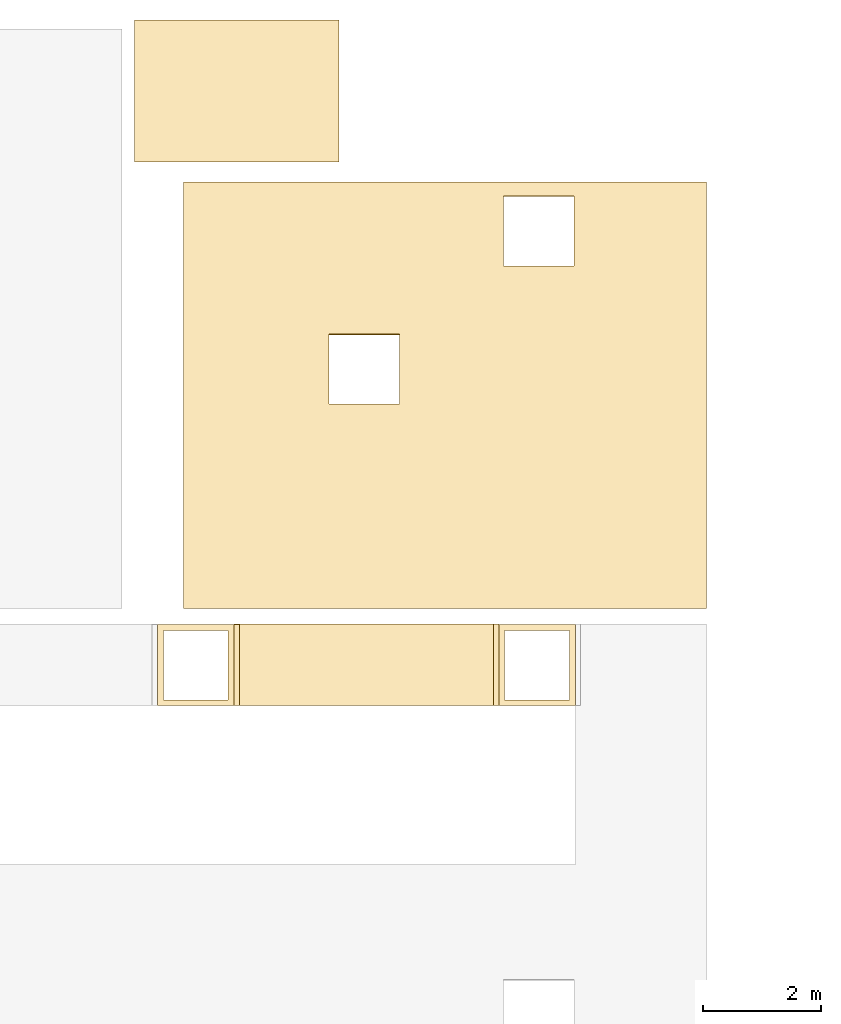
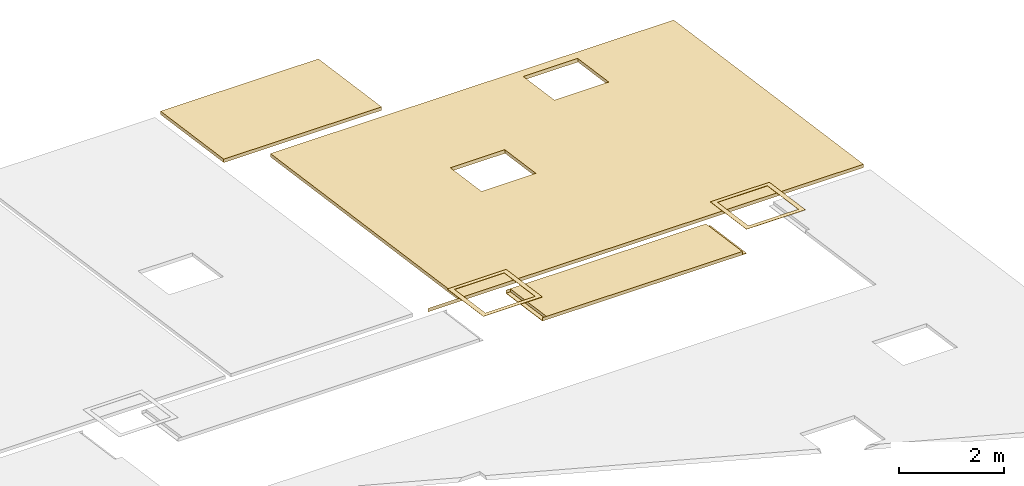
# One storey, part 39 of 43: 5 coverings, 19 openings.
"""IFC2X3 building model written with IfcOpenShell, lengths in millimetres."""

from ifc_helpers import new_model, entity, si_unit, converted_unit, derived_unit, money_unit, direction, frame, origin_with_axes, place, context, subcontext, project, spatial, faceted_brep, material, material_list, type_object, element, save


model = new_model("IFC2X3")

# Units and contexts
model_context = context("Model", 3, precision=0.01, world=origin_with_axes(), true_north=direction((0.0, 1.0)))
body_context = subcontext(model_context, "Body", "Model", "MODEL_VIEW")
ifc_project = project(units=[si_unit("LENGTHUNIT", "METRE", prefix="MILLI"), si_unit("AREAUNIT", "SQUARE_METRE"), si_unit("VOLUMEUNIT", "CUBIC_METRE"), converted_unit("PLANEANGLEUNIT", "DEGREE", entity("IfcPlaneAngleMeasure", 0.0174532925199), si_unit("PLANEANGLEUNIT", "RADIAN"), dimensions=[0, 0, 0, 0, 0, 0, 0]), si_unit("SOLIDANGLEUNIT", "STERADIAN"), money_unit("EUR"), converted_unit("TIMEUNIT", "Year", entity("IfcTimeMeasure", 31556926.0), si_unit("TIMEUNIT", "SECOND"), dimensions=[0, 0, 1, 0, 0, 0, 0]), si_unit("MASSUNIT", "GRAM", prefix="KILO"), si_unit("THERMODYNAMICTEMPERATUREUNIT", "DEGREE_CELSIUS"), si_unit("LUMINOUSINTENSITYUNIT", "LUMEN"), si_unit("ENERGYUNIT", "JOULE", prefix="MEGA"), derived_unit("THERMALCONDUCTANCEUNIT", [(si_unit("POWERUNIT", "WATT"), 1), (si_unit("LENGTHUNIT", "METRE"), -1), (si_unit("THERMODYNAMICTEMPERATUREUNIT", "KELVIN"), -1)]), derived_unit("SPECIFICHEATCAPACITYUNIT", [(si_unit("ENERGYUNIT", "JOULE"), 1), (si_unit("MASSUNIT", "GRAM", prefix="KILO"), -1), (si_unit("THERMODYNAMICTEMPERATUREUNIT", "KELVIN"), -1)]), derived_unit("MASSDENSITYUNIT", [(si_unit("MASSUNIT", "GRAM", prefix="KILO"), 1), (si_unit("VOLUMEUNIT", "CUBIC_METRE"), -1)])], contexts=[model_context])

# Site, building, storey
site_placement = place(None, origin_with_axes())
site = spatial("IfcSite", under=ifc_project, at=site_placement, Name="L.Koidula tn 11b", CompositionType="ELEMENT")
building_placement = place(site_placement, origin_with_axes())
building = spatial("IfcBuilding", under=site, at=building_placement, Name="Rakvere Riigigümnaasium", CompositionType="ELEMENT")
storey_placement = place(building_placement, frame((0.0, 0.0, 6665.0), z_axis=(0.0, 0.0, 1.0), x_axis=(1.0, 0.0, 0.0)))
storey = spatial("IfcBuildingStorey", under=building, at=storey_placement, Name="3.korrus +6,66", CompositionType="ELEMENT", Elevation=6665.0)

# Covering, openings
ifc_material_1 = material(Name="mineraalvill+karkass")
ifc_material_2 = material(Name="SKR-02_Kipsplaat")
ifc_material_list = material_list([ifc_material_1, ifc_material_2])
covering_type_1 = type_object("IfcCoveringType", Name="SA-LV-kips 79", PredefinedType="CEILING")
covering_1_placement = place(storey_placement, frame((35720.8120705, 44100.4559269, 839.855604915), z_axis=(0.0, 0.0, 1.0), x_axis=(1.0, -3.9700286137e-08, 0.0)))
covering_1 = element("IfcCovering", 1, at=covering_1_placement, inside=storey, type_object=covering_type_1, material=ifc_material_list, Name="L-01", PredefinedType="CEILING", context=body_context, shape_type="Brep", body=[
    faceted_brep([(1534.18438667, 17499.9661387, -2477.98804471), (1534.18438667, 17499.998726, -2477.99268257), (2239.18722587, 17499.9987537, -2477.99268652), (2239.18693813, 24743.6755989, -3508.92056718), (11129.1827906, 24743.6759521, -3508.92061743), (11129.1830775, 17499.9665203, -2477.98809902), (5915.72885243, 20965.8290995, -2971.25338954), (5915.72880526, 22153.8574888, -3140.33486787), (4715.72880526, 22153.8574421, -3140.33486122), (4715.72885243, 20965.8290528, -2971.2533829), (7679.18699495, 23315.0267059, -3305.59371991), (8879.18699495, 23315.0267526, -3305.59372656), (8879.18694778, 24503.0551418, -3474.67520488), (7679.18694778, 24503.0550951, -3474.67519824), (1534.184387, 17499.966139, -2411.32297117), (1534.184387, 17499.9987261, -2411.32760899), (2239.18722601, 17499.9987541, -2411.32761298), (2239.18693843, 24743.6755992, -3442.25549362), (11129.1827907, 24743.6759521, -3442.25554385), (11129.1830782, 17499.9665199, -2411.32302538), (5915.72880489, 22163.1569701, -3074.99330646), (5915.72885206, 20975.1285808, -2905.91182813), (4715.72880489, 22163.1569234, -3074.99329981), (4715.72885206, 20975.1285342, -2905.91182149), (7679.18699458, 23324.3261872, -3240.2521585), (8879.18699458, 23324.3262339, -3240.25216515), (8879.18694742, 24512.3546231, -3409.33364347), (7679.18694742, 24512.3545764, -3409.33363683)], [[[0, 1, 2, 3, 4, 5], [6, 7, 8, 9], [10, 11, 12, 13]], [[0, 14, 15, 1]], [[1, 15, 16, 2]], [[2, 16, 17, 3]], [[3, 17, 18, 4]], [[4, 18, 19, 5]], [[5, 19, 14, 0]], [[20, 7, 6, 21]], [[22, 8, 7, 20]], [[23, 9, 8, 22]], [[21, 6, 9, 23]], [[24, 25, 11, 10]], [[25, 26, 12, 11]], [[26, 27, 13, 12]], [[27, 24, 10, 13]], [[19, 18, 17, 16, 15, 14], [22, 20, 21, 23], [24, 27, 26, 25]]]),
    faceted_brep([(1534.18438661, 17499.998726, -2490.61864331), (2239.18722585, 17499.9987536, -2490.61864724), (2239.18693807, 24743.6755989, -3521.54652791), (11129.1827906, 24743.675952, -3521.54657817), (11129.1830774, 17499.9665203, -2490.61405977), (1534.18438661, 17499.9661386, -2490.61400544), (5915.7288525, 20964.0678342, -2983.62868509), (5915.72880533, 22152.0962234, -3152.71016342), (4715.72880533, 22152.0961767, -3152.71015677), (4715.7288525, 20964.0677875, -2983.62867845), (7679.18699502, 23313.2654405, -3317.96901546), (8879.18699502, 23313.2654872, -3317.96902211), (8879.18694785, 24501.2938764, -3487.05050044), (7679.18694785, 24501.2938297, -3487.05049379), (1534.18438667, 17499.998726, -2477.99268257), (2239.18722587, 17499.9987537, -2477.99268652), (2239.18693813, 24743.6755989, -3508.92056718), (11129.1827906, 24743.6759521, -3508.92061743), (11129.1830775, 17499.9665203, -2477.98809902), (1534.18438667, 17499.9661387, -2477.98804471), (5915.72880526, 22153.8574888, -3140.33486787), (5915.72885243, 20965.8290995, -2971.25338954), (4715.72880526, 22153.8574421, -3140.33486122), (4715.72885243, 20965.8290528, -2971.2533829), (7679.18699495, 23315.0267059, -3305.59371991), (8879.18699495, 23315.0267526, -3305.59372656), (8879.18694778, 24503.0551418, -3474.67520488), (7679.18694778, 24503.0550951, -3474.67519824)], [[[0, 1, 2, 3, 4, 5], [6, 7, 8, 9], [10, 11, 12, 13]], [[0, 14, 15, 1]], [[1, 15, 16, 2]], [[2, 16, 17, 3]], [[3, 17, 18, 4]], [[4, 18, 19, 5]], [[5, 19, 14, 0]], [[20, 7, 6, 21]], [[22, 8, 7, 20]], [[23, 9, 8, 22]], [[21, 6, 9, 23]], [[24, 25, 11, 10]], [[25, 26, 12, 11]], [[26, 27, 13, 12]], [[27, 24, 10, 13]], [[18, 17, 16, 15, 14, 19], [22, 20, 21, 23], [24, 27, 26, 25]]]),
])
opening_1_placement = place(covering_1_placement, frame((8279.18747309, 11271.2519721, -664.944044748), z_axis=(0.0, 0.0, 1.0), x_axis=(1.0, 0.0, 0.0)))
element("IfcOpeningElement", 2, at=opening_1_placement, cuts=covering_1, Name="Ava ripplaes", context=body_context, shape_type="Brep", body=[
    faceted_brep([(600.000047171, -1188.18248557, -671.857615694), (-599.999952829, -1188.18253321, -671.857615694), (-599.999952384, -1199.38596784, -751.574195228), (600.000047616, -1199.3859202, -751.574195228), (599.999999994, 0.139196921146, -838.865336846), (-600.000000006, 0.139149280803, -838.865336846), (-599.999999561, -11.0642853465, -918.58191638), (600.000000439, -11.0642377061, -918.58191638)], [[[0, 1, 2, 3]], [[0, 4, 5, 1]], [[1, 5, 6, 2]], [[3, 2, 6, 7]], [[4, 0, 3, 7]], [[5, 4, 7, 6]]]),
])
opening_2_placement = place(covering_1_placement, frame((-1566.03189625, 11271.2515812, -664.944044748), z_axis=(0.0, 0.0, 1.0), x_axis=(1.0, 0.0, 0.0)))
element("IfcOpeningElement", 3, at=opening_2_placement, cuts=covering_1, Name="Ava ripplaes", context=body_context, shape_type="Brep", body=[
    faceted_brep([(-599.999952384, -1199.38596784, -751.574195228), (600.000047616, -1199.3859202, -751.574195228), (600.000047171, -1188.18248557, -671.857615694), (-599.999952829, -1188.18253321, -671.857615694), (-599.999999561, -11.0642853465, -918.58191638), (600.000000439, -11.0642377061, -918.58191638), (599.999999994, 0.139196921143, -838.865336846), (-600.000000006, 0.139149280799, -838.865336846)], [[[0, 1, 2, 3]], [[0, 4, 5, 1]], [[1, 5, 6, 2]], [[3, 2, 6, 7]], [[4, 0, 3, 7]], [[5, 4, 7, 6]]]),
])
opening_3_placement = place(covering_1_placement, frame((5315.72909517, 14851.5314888, -1168.11953303), z_axis=(0.0, 0.0, 1.0), x_axis=(1.0, 0.0, 0.0)))
element("IfcOpeningElement", 4, at=opening_3_placement, cuts=covering_1, Name="Ava ripplaes", context=body_context, shape_type="Brep", body=[
    faceted_brep([(-599.999952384, -1199.38596784, -751.574195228), (600.000047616, -1199.3859202, -751.574195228), (600.000047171, -1188.18248557, -671.857615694), (-599.999952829, -1188.18253321, -671.857615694), (-599.999999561, -11.0642853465, -918.58191638), (600.000000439, -11.0642377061, -918.58191638), (599.999999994, 0.139196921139, -838.865336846), (-600.000000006, 0.139149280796, -838.865336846)], [[[0, 1, 2, 3]], [[0, 4, 5, 1]], [[1, 5, 6, 2]], [[3, 2, 6, 7]], [[4, 0, 3, 7]], [[5, 4, 7, 6]]]),
])
opening_4_placement = place(covering_1_placement, frame((8279.18724016, 17138.3843581, -1489.51572759), z_axis=(0.0, 0.0, 1.0), x_axis=(1.0, 0.0, 0.0)))
element("IfcOpeningElement", 5, at=opening_4_placement, cuts=covering_1, Name="Ava ripplaes", context=body_context, shape_type="Brep", body=[
    faceted_brep([(-599.999952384, -1199.38596784, -751.574195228), (600.000047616, -1199.3859202, -751.574195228), (600.000047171, -1188.18248557, -671.857615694), (-599.999952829, -1188.18253321, -671.857615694), (-599.999999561, -11.0642853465, -918.58191638), (600.000000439, -11.0642377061, -918.58191638), (599.999999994, 0.139196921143, -838.865336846), (-600.000000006, 0.139149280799, -838.865336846)], [[[0, 1, 2, 3]], [[0, 4, 5, 1]], [[1, 5, 6, 2]], [[3, 2, 6, 7]], [[4, 0, 3, 7]], [[5, 4, 7, 6]]]),
])
opening_5_placement = place(covering_1_placement, frame((-11439.2817039, 21650.1991211, -2123.61005042), z_axis=(0.0, 0.0, 1.0), x_axis=(1.0, 0.0, 0.0)))
element("IfcOpeningElement", 6, at=opening_5_placement, cuts=covering_1, Name="Ava ripplaes", context=body_context, shape_type="Brep", body=[
    faceted_brep([(600.000047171, -1188.18248557, -671.857615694), (-599.999952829, -1188.18253321, -671.857615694), (-599.999952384, -1199.38596784, -751.574195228), (600.000047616, -1199.3859202, -751.574195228), (599.999999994, 0.139196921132, -838.865336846), (-600.000000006, 0.139149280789, -838.865336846), (-599.999999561, -11.0642853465, -918.58191638), (600.000000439, -11.0642377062, -918.58191638)], [[[0, 1, 2, 3]], [[0, 4, 5, 1]], [[1, 5, 6, 2]], [[3, 2, 6, 7]], [[4, 0, 3, 7]], [[5, 4, 7, 6]]]),
])
opening_6_placement = place(covering_1_placement, frame((-14498.8404953, 24037.051954, -2459.06035694), z_axis=(0.0, 0.0, 1.0), x_axis=(1.0, 0.0, 0.0)))
element("IfcOpeningElement", 7, at=opening_6_placement, cuts=covering_1, Name="Ava ripplaes", context=body_context, shape_type="Brep", body=[
    faceted_brep([(-599.999952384, -1199.38596784, -751.574195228), (600.000047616, -1199.3859202, -751.574195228), (600.000047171, -1188.18248557, -671.857615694), (-599.999952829, -1188.18253321, -671.857615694), (-599.999999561, -11.0642853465, -918.58191638), (600.000000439, -11.0642377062, -918.58191638), (599.999999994, 0.139196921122, -838.865336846), (-600.000000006, 0.139149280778, -838.865336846)], [[[0, 1, 2, 3]], [[0, 4, 5, 1]], [[1, 5, 6, 2]], [[3, 2, 6, 7]], [[4, 0, 3, 7]], [[5, 4, 7, 6]]]),
])
opening_7_placement = place(covering_1_placement, frame((5315.72880489, 22163.156951, -2235.13766878), z_axis=(0.0, 0.0, 1.0), x_axis=(1.0, 0.0, 0.0)))
element("IfcOpeningElement", 8, at=opening_7_placement, cuts=covering_1, Name="Ava ripplaes", context=body_context, shape_type="Brep", body=[
    faceted_brep([(-599.99995239, -1199.23006102, -749.481007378), (600.00004761, -1199.23001338, -749.481007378), (600.000047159, -1187.88746421, -669.784102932), (-599.999952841, -1187.88751185, -669.784102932), (-599.999999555, -11.2016717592, -918.562485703), (600.000000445, -11.2016241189, -918.562485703), (599.999999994, 0.140925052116, -838.865581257), (-600.000000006, 0.140877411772, -838.865581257)], [[[0, 1, 2, 3]], [[0, 4, 5, 1]], [[1, 5, 6, 2]], [[3, 2, 6, 7]], [[4, 0, 3, 7]], [[5, 4, 7, 6]]]),
])
opening_8_placement = place(covering_1_placement, frame((8279.18694742, 24512.3546063, -2569.47798939), z_axis=(0.0, 0.0, 1.0), x_axis=(1.0, 0.0, 0.0)))
element("IfcOpeningElement", 9, at=opening_8_placement, cuts=covering_1, Name="Ava ripplaes", context=body_context, shape_type="Brep", body=[
    faceted_brep([(600.000047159, -1187.88746421, -669.784102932), (-599.999952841, -1187.88751185, -669.784102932), (-599.99995239, -1199.23006102, -749.481007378), (600.00004761, -1199.23001338, -749.481007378), (599.999999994, 0.140925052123, -838.865581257), (-600.000000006, 0.140877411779, -838.865581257), (-599.999999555, -11.2016717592, -918.562485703), (600.000000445, -11.2016241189, -918.562485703)], [[[0, 1, 2, 3]], [[0, 4, 5, 1]], [[1, 5, 6, 2]], [[3, 2, 6, 7]], [[4, 0, 3, 7]], [[5, 4, 7, 6]]]),
])

covering_2_placement = place(storey_placement, frame((16550.0000292, 44100.5946522, 839.851083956), z_axis=(0.0, 0.0, 1.0), x_axis=(1.0, 0.0, 0.0)))
covering_2 = element("IfcCovering", 10, at=covering_2_placement, inside=storey, type_object=covering_type_1, material=ifc_material_list, Name="L-01", PredefinedType="CEILING", context=body_context, shape_type="Brep", body=[
    faceted_brep([(22360.9999619, 15849.9991706, -2243.16297092), (22269.9999619, 15849.9991706, -2243.16297094), (22269.9999619, 15849.9991706, -2176.49789734), (22360.9999619, 15849.9991706, -2176.49789734), (22269.9999619, 17229.8599975, -2439.54624814), (22269.9999616, 17238.7702102, -2440.81435921), (26678.9999619, 17238.7702104, -2440.81435921), (26678.9999619, 15849.8599975, -2243.14316363), (22269.9999616, 15849.8599971, -2243.14316363), (22360.9999619, 17229.8599975, -2439.54624812), (22269.9999619, 15849.8599975, -2176.47809008), (22269.9999619, 17229.8599975, -2372.88117455), (22360.9999619, 17229.8599975, -2372.88117455), (26678.9999619, 15849.8599975, -2176.47809008), (26678.9999619, 17238.7702104, -2374.14928564), (22269.9999619, 17238.7702104, -2374.14928564)], [[[0, 1, 2, 3]], [[4, 5, 6, 7, 8, 1, 0, 9]], [[2, 1, 8, 10]], [[11, 12, 3, 2, 10, 13, 14, 15]], [[3, 12, 9, 0]], [[4, 11, 15, 5]], [[15, 14, 6, 5]], [[7, 6, 14, 13]], [[8, 7, 13, 10]], [[12, 11, 4, 9]]]),
    faceted_brep([(22269.9999619, 15849.9991706, -2243.16297094), (22269.9999616, 15849.8599971, -2243.14316363), (26678.9999619, 15849.8599975, -2243.14316363), (26678.9999619, 17238.7702104, -2440.81435921), (22269.9999616, 17238.7702102, -2440.81435921), (22269.9999619, 17229.8599975, -2439.54624814), (22360.9999619, 17229.8599975, -2439.5462481), (22360.9999619, 15849.9991706, -2243.16297089), (22269.9999619, 17229.8599975, -2440.10942265), (22269.9999615, 17238.7702102, -2453.44031994), (22269.9999615, 15849.8599971, -2255.76912435), (22269.9999619, 15849.9991706, -2243.72614545), (26769.9999619, 15849.8599975, -2243.70633818), (26678.9999619, 15849.8599975, -2243.70633818), (26769.9999615, 15849.8599971, -2255.76912435), (26678.9999619, 17238.7702104, -2441.37753374), (26769.9999619, 17238.7702104, -2441.37753374), (26769.9999615, 17238.7702102, -2453.44031994), (22360.9999619, 17229.8599975, -2440.10942265), (22360.9999619, 15849.9991706, -2243.72614545)], [[[0, 1, 2, 3, 4, 5, 6, 7]], [[8, 5, 4, 9, 10, 1, 0, 11]], [[12, 13, 2, 1, 10, 14]], [[13, 15, 3, 2]], [[4, 3, 15, 16, 17, 9]], [[6, 5, 8, 18]], [[7, 6, 18, 19]], [[11, 0, 7, 19]], [[17, 14, 10, 9]], [[8, 11, 19, 18]], [[12, 16, 15, 13]], [[17, 16, 12, 14]]]),
])
opening_9_placement = place(covering_2_placement, frame((27449.9999619, 11156.5171078, -648.823678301), z_axis=(0.0, 0.0, 1.0), x_axis=(1.0, 0.0, 0.0)))
element("IfcOpeningElement", 11, at=opening_9_placement, cuts=covering_2, Name="Ava ripplaes", context=body_context, shape_type="Brep", body=[
    faceted_brep([(600.0, -1188.18250939, -671.853094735), (-600.0, -1188.18250939, -671.853094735), (-600.0, -1199.38594402, -751.569674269), (600.0, -1199.38594402, -751.569674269), (600.0, 0.139173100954, -838.860815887), (-600.0, 0.139173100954, -838.860815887), (-600.0, -11.0642615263, -918.577395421), (600.0, -11.0642615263, -918.577395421)], [[[0, 1, 2, 3]], [[0, 4, 5, 1]], [[1, 5, 6, 2]], [[3, 2, 6, 7]], [[4, 0, 3, 7]], [[5, 4, 7, 6]]]),
])
opening_10_placement = place(covering_2_placement, frame((17604.7805926, 11157.5172853, -648.964244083), z_axis=(0.0, 0.0, 1.0), x_axis=(1.0, 0.0, 0.0)))
element("IfcOpeningElement", 12, at=opening_10_placement, cuts=covering_2, Name="Ava ripplaes", context=body_context, shape_type="Brep", body=[
    faceted_brep([(-600.0, -1199.38594402, -751.569674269), (600.0, -1199.38594402, -751.569674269), (600.0, -1188.18250939, -671.853094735), (-600.0, -1188.18250939, -671.853094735), (-600.0, -11.0642615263, -918.577395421), (600.0, -11.0642615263, -918.577395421), (600.0, 0.139173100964, -838.860815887), (-600.0, 0.139173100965, -838.860815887)], [[[0, 1, 2, 3]], [[0, 4, 5, 1]], [[1, 5, 6, 2]], [[3, 2, 6, 7]], [[4, 0, 3, 7]], [[5, 4, 7, 6]]]),
])
opening_11_placement = place(covering_2_placement, frame((13843.1259217, 8780.99263953, -314.965486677), z_axis=(0.0, 0.0, 1.0), x_axis=(1.0, 0.0, 0.0)))
element("IfcOpeningElement", 13, at=opening_11_placement, cuts=covering_2, Name="Ava ripplaes", context=body_context, shape_type="Brep", body=[
    faceted_brep([(600.0, -1188.18250939, -671.853094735), (-600.0, -1188.18250939, -671.853094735), (-600.0, -1199.38594402, -751.569674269), (600.0, -1199.38594402, -751.569674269), (600.0, 0.139173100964, -838.860815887), (-600.0, 0.139173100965, -838.860815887), (-600.0, -11.0642615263, -918.577395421), (600.0, -11.0642615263, -918.577395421)], [[[0, 1, 2, 3]], [[0, 4, 5, 1]], [[1, 5, 6, 2]], [[3, 2, 6, 7]], [[4, 0, 3, 7]], [[5, 4, 7, 6]]]),
])
opening_12_placement = place(covering_2_placement, frame((24486.5417261, 14851.5317256, -1168.12405399), z_axis=(0.0, 0.0, 1.0), x_axis=(1.0, 0.0, 0.0)))
element("IfcOpeningElement", 14, at=opening_12_placement, cuts=covering_2, Name="Ava ripplaes", context=body_context, shape_type="Brep", body=[
    faceted_brep([(-600.0, -1199.38594402, -751.569674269), (600.0, -1199.38594402, -751.569674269), (600.0, -1188.18250939, -671.853094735), (-600.0, -1188.18250939, -671.853094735), (-600.0, -11.0642615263, -918.577395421), (600.0, -11.0642615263, -918.577395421), (600.0, 0.139173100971, -838.860815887), (-600.0, 0.139173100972, -838.860815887)], [[[0, 1, 2, 3]], [[0, 4, 5, 1]], [[1, 5, 6, 2]], [[3, 2, 6, 7]], [[4, 0, 3, 7]], [[5, 4, 7, 6]]]),
])
opening_13_placement = place(covering_2_placement, frame((4671.97250036, 17019.1035453, -1472.75646974), z_axis=(0.0, 0.0, 1.0), x_axis=(1.0, 0.0, 0.0)))
element("IfcOpeningElement", 15, at=opening_13_placement, cuts=covering_2, Name="Ava ripplaes", context=body_context, shape_type="Brep", body=[
    faceted_brep([(600.0, -1188.18250939, -671.853094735), (-600.0, -1188.18250939, -671.853094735), (-600.0, -1199.38594402, -751.569674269), (600.0, -1199.38594402, -751.569674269), (600.0, 0.139173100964, -838.860815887), (-600.0, 0.139173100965, -838.860815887), (-600.0, -11.0642615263, -918.577395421), (600.0, -11.0642615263, -918.577395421)], [[[0, 1, 2, 3]], [[0, 4, 5, 1]], [[1, 5, 6, 2]], [[3, 2, 6, 7]], [[4, 0, 3, 7]], [[5, 4, 7, 6]]]),
])

covering_3_placement = place(storey_placement, frame((35720.8120705, 44100.4559269, 838.860815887), z_axis=(0.0, 0.0, 1.0), x_axis=(1.0, -3.97002862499e-08, 0.0)))
covering_3 = element("IfcCovering", 16, at=covering_3_placement, inside=storey, type_object=covering_type_1, material=ifc_material_list, Name="L-01", PredefinedType="CEILING", context=body_context, shape_type="Brep", body=[
    faceted_brep([(1409.18408762, 25088.6754304, -3491.35624072), (4888.72236089, 25088.6755685, -3491.35626038), (4888.72226516, 27499.9959732, -3834.53797424), (1409.18399189, 27499.9958351, -3834.53795458), (1409.18408709, 25088.6754301, -3558.02131426), (4888.72236019, 25088.6755684, -3558.02133394), (4888.72226508, 27499.9959731, -3901.20304781), (1409.18399119, 27499.9958349, -3901.20302813)], [[[0, 1, 2, 3]], [[0, 4, 5, 1]], [[1, 5, 6, 2]], [[2, 6, 7, 3]], [[3, 7, 4, 0]], [[4, 7, 6, 5]]]),
    faceted_brep([(1409.18399119, 27499.9958349, -3901.20302813), (1409.18399106, 27499.9958348, -3913.82898886), (1409.18408699, 25088.67543, -3570.64727499), (1409.18408709, 25088.6754301, -3558.02131426), (4888.72226508, 27499.9959731, -3901.20304781), (4888.72226506, 27499.9959731, -3913.82900855), (4888.72236006, 25088.6755683, -3570.64729467), (4888.72236019, 25088.6755684, -3558.02133394)], [[[0, 1, 2, 3]], [[4, 5, 1, 0]], [[1, 5, 6, 2]], [[3, 2, 6, 7]], [[3, 7, 4, 0]], [[7, 6, 5, 4]]]),
])
opening_14_placement = place(covering_3_placement, frame((-1566.03189625, 11271.2515812, -665.938833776), z_axis=(0.0, 0.0, 1.0), x_axis=(1.0, 0.0, 0.0)))
element("IfcOpeningElement", 17, at=opening_14_placement, cuts=covering_3, Name="Ava ripplaes", context=body_context, shape_type="Brep", body=[
    faceted_brep([(-599.999952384, -1199.38596784, -750.5794062), (600.000047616, -1199.3859202, -750.5794062), (600.000047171, -1188.18248557, -670.862826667), (-599.999952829, -1188.18253321, -670.862826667), (-599.999999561, -11.0642853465, -917.587127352), (600.000000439, -11.0642377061, -917.587127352), (599.999999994, 0.139196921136, -837.870547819), (-600.000000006, 0.139149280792, -837.870547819)], [[[0, 1, 2, 3]], [[0, 4, 5, 1]], [[1, 5, 6, 2]], [[3, 2, 6, 7]], [[4, 0, 3, 7]], [[5, 4, 7, 6]]]),
])
opening_15_placement = place(covering_3_placement, frame((-5327.68647234, 8884.3984775, -330.488527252), z_axis=(0.0, 0.0, 1.0), x_axis=(1.0, 0.0, 0.0)))
element("IfcOpeningElement", 18, at=opening_15_placement, cuts=covering_3, Name="Ava ripplaes", context=body_context, shape_type="Brep", body=[
    faceted_brep([(600.000047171, -1188.18248557, -670.862826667), (-599.999952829, -1188.18253321, -670.862826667), (-599.999952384, -1199.38596784, -750.5794062), (600.000047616, -1199.3859202, -750.5794062), (599.999999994, 0.139196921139, -837.870547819), (-600.000000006, 0.139149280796, -837.870547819), (-599.999999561, -11.0642853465, -917.587127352), (600.000000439, -11.0642377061, -917.587127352)], [[[0, 1, 2, 3]], [[0, 4, 5, 1]], [[1, 5, 6, 2]], [[3, 2, 6, 7]], [[4, 0, 3, 7]], [[5, 4, 7, 6]]]),
])
opening_16_placement = place(covering_3_placement, frame((-11439.2817039, 21650.1991211, -2124.60483944), z_axis=(0.0, 0.0, 1.0), x_axis=(1.0, 0.0, 0.0)))
element("IfcOpeningElement", 19, at=opening_16_placement, cuts=covering_3, Name="Ava ripplaes", context=body_context, shape_type="Brep", body=[
    faceted_brep([(600.000047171, -1188.18248557, -670.862826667), (-599.999952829, -1188.18253321, -670.862826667), (-599.999952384, -1199.38596784, -750.5794062), (600.000047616, -1199.3859202, -750.5794062), (599.999999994, 0.139196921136, -837.870547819), (-600.000000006, 0.139149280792, -837.870547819), (-599.999999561, -11.0642853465, -917.587127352), (600.000000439, -11.0642377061, -917.587127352)], [[[0, 1, 2, 3]], [[0, 4, 5, 1]], [[1, 5, 6, 2]], [[3, 2, 6, 7]], [[4, 0, 3, 7]], [[5, 4, 7, 6]]]),
])
opening_17_placement = place(covering_3_placement, frame((-14498.8404953, 24037.051954, -2460.05514597), z_axis=(0.0, 0.0, 1.0), x_axis=(1.0, 0.0, 0.0)))
element("IfcOpeningElement", 20, at=opening_17_placement, cuts=covering_3, Name="Ava ripplaes", context=body_context, shape_type="Brep", body=[
    faceted_brep([(-599.999952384, -1199.38596784, -750.5794062), (600.000047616, -1199.3859202, -750.5794062), (600.000047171, -1188.18248557, -670.862826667), (-599.999952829, -1188.18253321, -670.862826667), (-599.999999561, -11.0642853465, -917.587127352), (600.000000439, -11.0642377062, -917.587127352), (599.999999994, 0.139196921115, -837.870547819), (-600.000000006, 0.139149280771, -837.870547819)], [[[0, 1, 2, 3]], [[0, 4, 5, 1]], [[1, 5, 6, 2]], [[3, 2, 6, 7]], [[4, 0, 3, 7]], [[5, 4, 7, 6]]]),
])

# Covering, opening
ifc_material_3 = material(Name="Teras")
covering_type_2 = type_object("IfcCoveringType", Name="Teras 5", PredefinedType="NOTDEFINED")
covering_4_placement = place(storey_placement, frame((37615.9999911, 59950.5938227, -855.343534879), z_axis=(0.0, 0.0, 1.0), x_axis=(1.0, 0.0, 0.0)))
covering_4 = element("IfcCovering", 21, at=covering_4_placement, inside=storey, type_object=covering_type_2, material=ifc_material_3, Name="Katuseakna terasraam", PredefinedType="NOTDEFINED", context=body_context, shape_type="Brep", body=[
    faceted_brep([(-96.0000003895, -0.139173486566, 0.0198074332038), (-96.0000003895, 1379.86082712, -196.383277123), (1204.00000036, 1379.86082712, -196.383277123), (1204.00000036, -0.139173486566, 0.0198074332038), (4.0, 99.0680734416, -14.0994746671), (1104.0, 99.0680734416, -14.0994746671), (1104.0, 1281.15632076, -182.335545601), (4.0, 1281.15632076, -182.335545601), (-96.0, 1379.8608269, -191.332892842), (-96.0, -0.139173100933, 5.0701916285), (1204.0, 1379.8608269, -191.332892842), (1204.0, -0.139173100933, 5.0701916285), (4.0, 99.7725795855, -9.14935648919), (1104.0, 99.7725795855, -9.14935648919), (1104.0, 1281.8608269, -177.385427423), (4.0, 1281.8608269, -177.385427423)], [[[0, 1, 2, 3], [4, 5, 6, 7]], [[8, 1, 0, 9]], [[10, 2, 1, 8]], [[11, 3, 2, 10]], [[9, 0, 3, 11]], [[12, 13, 5, 4]], [[13, 14, 6, 5]], [[14, 15, 7, 6]], [[15, 12, 4, 7]], [[11, 10, 8, 9], [12, 15, 14, 13]]]),
])
opening_18_placement = place(covering_4_placement, frame((554.0, 1281.8608269, -1032.7289623), z_axis=(0.0, 0.0, 1.0), x_axis=(1.0, 0.0, 0.0)))
element("IfcOpeningElement", 22, at=opening_18_placement, cuts=covering_4, Name="Ava ripplaes", context=body_context, shape_type="Brep", body=[
    faceted_brep([(550.0, -1181.94734608, 1024.56962947), (-550.0, -1181.94734608, 1024.56962947), (-550.0, -1182.93365471, 1017.63946387), (550.0, -1182.93365471, 1017.63946387), (550.0, 0.140901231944, 856.333558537), (-550.0, 0.140901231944, 856.333558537), (-550.0, -0.845407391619, 849.403392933), (550.0, -0.845407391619, 849.403392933)], [[[0, 1, 2, 3]], [[0, 4, 5, 1]], [[1, 5, 6, 2]], [[3, 2, 6, 7]], [[4, 0, 3, 7]], [[5, 4, 7, 6]]]),
])

covering_5_placement = place(storey_placement, frame((43415.9999911, 59950.5938227, -855.343534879), z_axis=(0.0, 0.0, 1.0), x_axis=(1.0, 0.0, 0.0)))
covering_5 = element("IfcCovering", 23, at=covering_5_placement, inside=storey, type_object=covering_type_2, material=ifc_material_3, Name="Katuseakna terasraam", PredefinedType="NOTDEFINED", context=body_context, shape_type="Brep", body=[
    faceted_brep([(-96.0000003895, -0.139173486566, 0.0198074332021), (-96.0000003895, 1379.86082712, -196.383277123), (1204.00000036, 1379.86082712, -196.383277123), (1204.00000036, -0.139173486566, 0.0198074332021), (4.0, 99.0680734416, -14.0994746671), (1104.0, 99.0680734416, -14.0994746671), (1104.0, 1281.15632076, -182.335545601), (4.0, 1281.15632076, -182.335545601), (-96.0, 1379.8608269, -191.332892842), (-96.0, -0.139173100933, 5.0701916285), (1204.0, 1379.8608269, -191.332892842), (1204.0, -0.139173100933, 5.0701916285), (4.0, 99.7725795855, -9.1493564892), (1104.0, 99.7725795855, -9.1493564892), (1104.0, 1281.8608269, -177.385427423), (4.0, 1281.8608269, -177.385427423)], [[[0, 1, 2, 3], [4, 5, 6, 7]], [[8, 1, 0, 9]], [[10, 2, 1, 8]], [[11, 3, 2, 10]], [[9, 0, 3, 11]], [[12, 13, 5, 4]], [[13, 14, 6, 5]], [[14, 15, 7, 6]], [[15, 12, 4, 7]], [[11, 10, 8, 9], [12, 15, 14, 13]]]),
])
opening_19_placement = place(covering_5_placement, frame((554.0, 1281.8608269, -1032.7289623), z_axis=(0.0, 0.0, 1.0), x_axis=(1.0, 0.0, 0.0)))
element("IfcOpeningElement", 24, at=opening_19_placement, cuts=covering_5, Name="Ava ripplaes", context=body_context, shape_type="Brep", body=[
    faceted_brep([(550.0, -1181.94734608, 1024.56962947), (-550.0, -1181.94734608, 1024.56962947), (-550.0, -1182.93365471, 1017.63946387), (550.0, -1182.93365471, 1017.63946387), (550.0, 0.140901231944, 856.333558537), (-550.0, 0.140901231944, 856.333558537), (-550.0, -0.845407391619, 849.403392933), (550.0, -0.845407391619, 849.403392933)], [[[0, 1, 2, 3]], [[0, 4, 5, 1]], [[1, 5, 6, 2]], [[3, 2, 6, 7]], [[4, 0, 3, 7]], [[5, 4, 7, 6]]]),
])

save(model, "model.ifc")
